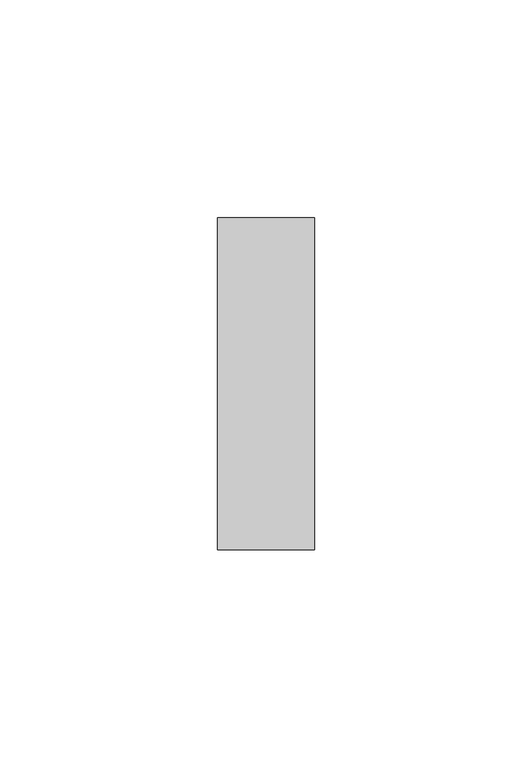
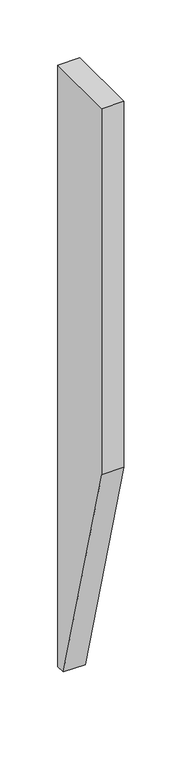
"""IFC4 building model written with IfcOpenShell, lengths in millimetres: proxy geometry, AERO^TABLE 2_ATS1S-4848^CNTLVR BLK06."""

from ifc_helpers import new_model, si_unit, frame, origin, place, context, project, spatial, polyline, outline, extrude, source, transform, mapped, element, save


def generic_models_36fbda0c(model_context):
    return source(origin(), model_context, "Body", "SweptSolid", [
        extrude(outline(polyline([(76.2, 0.0), (76.2, -635.6563662), (66.675, -635.6563662), (0.0, -386.8218786), (0.0, 0.0), (76.2, 0.0)])), frame((-22.225, 0.0, 0.0), z_axis=(1.0, 0.0, 0.0), x_axis=(0.0, 1.0, 0.0)), (0.0, 0.0, 1.0), 22.225),
    ])


if __name__ == "__main__":
    model = new_model("IFC4")
    model_context = context("Model", 3, world=origin())
    ifc_project = project(units=[si_unit("LENGTHUNIT", "METRE", prefix="MILLI")], contexts=[model_context])
    site = spatial("IfcSite", under=ifc_project)
    building = spatial("IfcBuilding", under=site)
    placement = place(None, origin())
    generic_models_shape = generic_models_36fbda0c(model_context)
    element("IfcBuildingElementProxy", 1, Name="AERO^TABLE 2_ATS1S-4848^CNTLVR BLK06", ObjectType="AERO^TABLE 2_ATS1S-4848^CNTLVR BLK06", at=placement, inside=building, context=model_context, shape_type="MappedRepresentation", body=[
        mapped(generic_models_shape, transform((0.0, 0.0, 0.0), x_axis=(1.0, 0.0, 0.0), y_axis=(0.0, 1.0, 0.0), z_axis=(0.0, 0.0, 1.0))),
    ])
    save(model, "model.ifc")
